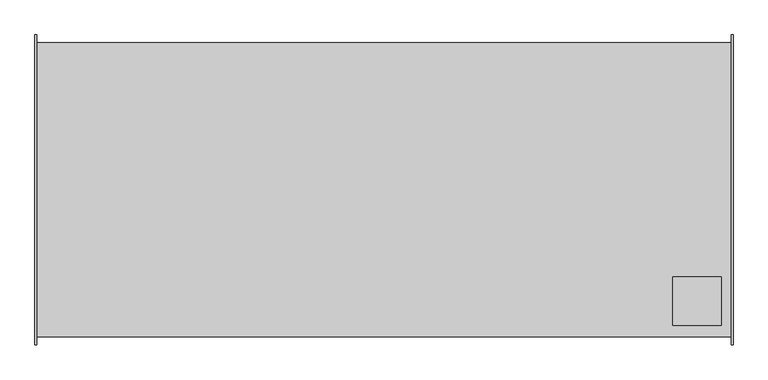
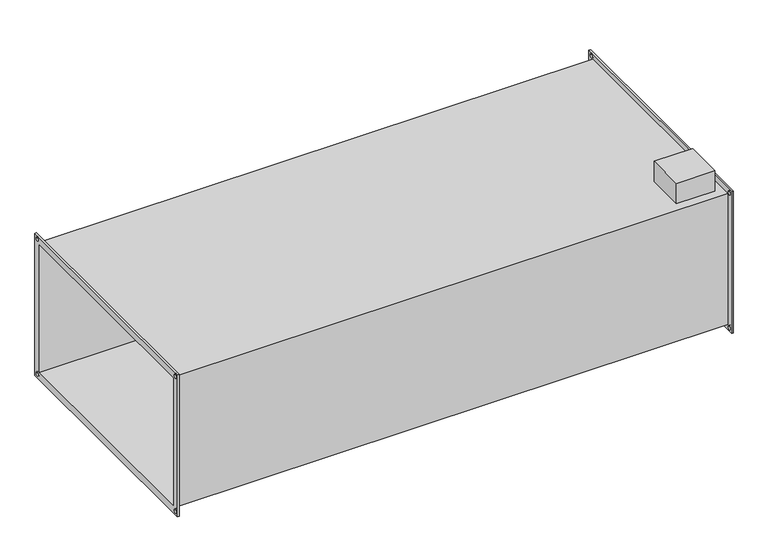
"""IFC4 building model written with IfcOpenShell, lengths in millimetres: proxy geometry."""

from ifc_helpers import new_model, si_unit, frame, origin, place, context, project, spatial, polyline, circle_curve, source, transform, mapped, element, save
from ifc_brep_helpers import plane_surface, revolved_surface, advanced_brep


def mechanical_equipment_26e38f52(model_context):
    return source(origin(), model_context, "Body", "AdvancedBrep", [
        advanced_brep(
        [(716.0, -304.0, 179.0), (-716.0, -304.0, 179.0), (-716.0, -304.0, -179.0), (716.0, -304.0, -179.0), (-716.0, 304.0, -179.0), (716.0, 304.0, -179.0), (-716.0, 304.0, 179.0), (716.0, 304.0, 179.0), (596.0, -180.0, 179.0), (696.0, -180.0, 179.0), (696.0, -280.0, 179.0), (596.0, -280.0, 179.0), (696.0, -180.0, 235.0), (596.0, -180.0, 235.0), (596.0, -280.0, 235.0), (696.0, -280.0, 235.0), (-720.0, -320.0, 195.0), (-720.0, 320.0, 195.0), (-720.0, 320.0, -195.0), (-720.0, -320.0, -195.0), (-720.0, -300.0, 175.0), (-720.0, -300.0, -175.0), (-720.0, 300.0, -175.0), (-720.0, 300.0, 175.0), (-720.0, -315.0, 185.0), (-720.0, -305.0, 185.0), (-720.0, -315.0, -185.0), (-720.0, -305.0, -185.0), (-720.0, 305.0, -185.0), (-720.0, 315.0, -185.0), (-720.0, 305.0, 185.0), (-720.0, 315.0, 185.0), (-716.0, -320.0, 195.0), (-716.0, -320.0, -195.0), (-716.0, 320.0, -195.0), (-716.0, 320.0, 195.0), (-716.0, -305.0, 185.0), (-716.0, -315.0, 185.0), (-716.0, -305.0, -185.0), (-716.0, -315.0, -185.0), (-716.0, 315.0, -185.0), (-716.0, 305.0, -185.0), (-716.0, 315.0, 185.0), (-716.0, 305.0, 185.0), (716.0, 320.0, 195.0), (716.0, 320.0, -195.0), (716.0, -320.0, -195.0), (716.0, -320.0, 195.0), (716.0, -315.0, 185.0), (716.0, -305.0, 185.0), (716.0, -315.0, -185.0), (716.0, -305.0, -185.0), (716.0, 305.0, -185.0), (716.0, 315.0, -185.0), (716.0, 305.0, 185.0), (716.0, 315.0, 185.0), (720.0, 320.0, 195.0), (720.0, -320.0, 195.0), (720.0, -320.0, -195.0), (720.0, 320.0, -195.0), (720.0, 300.0, 175.0), (720.0, 300.0, -175.0), (720.0, -300.0, -175.0), (720.0, -300.0, 175.0), (720.0, -305.0, 185.0), (720.0, -315.0, 185.0), (720.0, -305.0, -185.0), (720.0, -315.0, -185.0), (720.0, 315.0, -185.0), (720.0, 305.0, -185.0), (720.0, 315.0, 185.0), (720.0, 305.0, 185.0)],
        [
            (0, 1),
            (1, 2),
            (2, 3),
            (3, 0),
            (2, 4),
            (4, 5),
            (5, 3),
            (4, 6),
            (6, 7),
            (7, 5),
            (0, 7),
            (6, 1),
            (8, 9),
            (9, 10),
            (10, 11),
            (11, 8),
            (12, 13),
            (13, 14),
            (14, 15),
            (15, 12),
            (12, 9),
            (8, 13),
            (11, 14),
            (10, 15),
            (16, 17),
            (17, 18),
            (18, 19),
            (19, 16),
            (20, 21),
            (21, 22),
            (22, 23),
            (23, 20),
            (24, 25, circle_curve(frame((-720.0, -310.0, 185.0), z_axis=(1.0, 0.0, 0.0), x_axis=(0.0, 1.0, 0.0)), 5.0)),
            (25, 24, circle_curve(frame((-720.0, -310.0, 185.0), z_axis=(1.0, 0.0, 0.0), x_axis=(0.0, 1.0, 0.0)), 5.0)),
            (26, 27, circle_curve(frame((-720.0, -310.0, -185.0), z_axis=(1.0, 0.0, 0.0), x_axis=(0.0, 1.0, 0.0)), 5.0)),
            (27, 26, circle_curve(frame((-720.0, -310.0, -185.0), z_axis=(1.0, 0.0, 0.0), x_axis=(0.0, 1.0, 0.0)), 5.0)),
            (28, 29, circle_curve(frame((-720.0, 310.0, -185.0), z_axis=(1.0, 0.0, 0.0), x_axis=(0.0, 1.0, 0.0)), 5.0)),
            (29, 28, circle_curve(frame((-720.0, 310.0, -185.0), z_axis=(1.0, 0.0, 0.0), x_axis=(0.0, 1.0, 0.0)), 5.0)),
            (30, 31, circle_curve(frame((-720.0, 310.0, 185.0), z_axis=(1.0, 0.0, 0.0), x_axis=(0.0, 1.0, 0.0)), 5.0)),
            (31, 30, circle_curve(frame((-720.0, 310.0, 185.0), z_axis=(1.0, 0.0, 0.0), x_axis=(0.0, 1.0, 0.0)), 5.0)),
            (32, 33),
            (33, 34),
            (34, 35),
            (35, 32),
            (36, 37, circle_curve(frame((-716.0, -310.0, 185.0), z_axis=(-1.0, 0.0, 0.0), x_axis=(0.0, 1.0, 0.0)), 5.0)),
            (37, 36, circle_curve(frame((-716.0, -310.0, 185.0), z_axis=(-1.0, 0.0, 0.0), x_axis=(0.0, 1.0, 0.0)), 5.0)),
            (38, 39, circle_curve(frame((-716.0, -310.0, -185.0), z_axis=(-1.0, 0.0, 0.0), x_axis=(0.0, 1.0, 0.0)), 5.0)),
            (39, 38, circle_curve(frame((-716.0, -310.0, -185.0), z_axis=(-1.0, 0.0, 0.0), x_axis=(0.0, 1.0, 0.0)), 5.0)),
            (40, 41, circle_curve(frame((-716.0, 310.0, -185.0), z_axis=(-1.0, 0.0, 0.0), x_axis=(0.0, 1.0, 0.0)), 5.0)),
            (41, 40, circle_curve(frame((-716.0, 310.0, -185.0), z_axis=(-1.0, 0.0, 0.0), x_axis=(0.0, 1.0, 0.0)), 5.0)),
            (42, 43, circle_curve(frame((-716.0, 310.0, 185.0), z_axis=(-1.0, 0.0, 0.0), x_axis=(0.0, 1.0, 0.0)), 5.0)),
            (43, 42, circle_curve(frame((-716.0, 310.0, 185.0), z_axis=(-1.0, 0.0, 0.0), x_axis=(0.0, 1.0, 0.0)), 5.0)),
            (19, 33),
            (32, 16),
            (18, 34),
            (17, 35),
            (44, 45),
            (45, 46),
            (46, 47),
            (47, 44),
            (48, 49, circle_curve(frame((716.0, -310.0, 185.0), z_axis=(1.0, 0.0, 0.0), x_axis=(0.0, 1.0, 0.0)), 5.0)),
            (49, 48, circle_curve(frame((716.0, -310.0, 185.0), z_axis=(1.0, 0.0, 0.0), x_axis=(0.0, 1.0, 0.0)), 5.0)),
            (50, 51, circle_curve(frame((716.0, -310.0, -185.0), z_axis=(1.0, 0.0, 0.0), x_axis=(0.0, 1.0, 0.0)), 5.0)),
            (51, 50, circle_curve(frame((716.0, -310.0, -185.0), z_axis=(1.0, 0.0, 0.0), x_axis=(0.0, 1.0, 0.0)), 5.0)),
            (52, 53, circle_curve(frame((716.0, 310.0, -185.0), z_axis=(1.0, 0.0, 0.0), x_axis=(0.0, 1.0, 0.0)), 5.0)),
            (53, 52, circle_curve(frame((716.0, 310.0, -185.0), z_axis=(1.0, 0.0, 0.0), x_axis=(0.0, 1.0, 0.0)), 5.0)),
            (54, 55, circle_curve(frame((716.0, 310.0, 185.0), z_axis=(1.0, 0.0, 0.0), x_axis=(0.0, 1.0, 0.0)), 5.0)),
            (55, 54, circle_curve(frame((716.0, 310.0, 185.0), z_axis=(1.0, 0.0, 0.0), x_axis=(0.0, 1.0, 0.0)), 5.0)),
            (56, 57),
            (57, 58),
            (58, 59),
            (59, 56),
            (60, 61),
            (61, 62),
            (62, 63),
            (63, 60),
            (64, 65, circle_curve(frame((720.0, -310.0, 185.0), z_axis=(-1.0, 0.0, 0.0), x_axis=(0.0, 1.0, 0.0)), 5.0)),
            (65, 64, circle_curve(frame((720.0, -310.0, 185.0), z_axis=(-1.0, 0.0, 0.0), x_axis=(0.0, 1.0, 0.0)), 5.0)),
            (66, 67, circle_curve(frame((720.0, -310.0, -185.0), z_axis=(-1.0, 0.0, 0.0), x_axis=(0.0, 1.0, 0.0)), 5.0)),
            (67, 66, circle_curve(frame((720.0, -310.0, -185.0), z_axis=(-1.0, 0.0, 0.0), x_axis=(0.0, 1.0, 0.0)), 5.0)),
            (68, 69, circle_curve(frame((720.0, 310.0, -185.0), z_axis=(-1.0, 0.0, 0.0), x_axis=(0.0, 1.0, 0.0)), 5.0)),
            (69, 68, circle_curve(frame((720.0, 310.0, -185.0), z_axis=(-1.0, 0.0, 0.0), x_axis=(0.0, 1.0, 0.0)), 5.0)),
            (70, 71, circle_curve(frame((720.0, 310.0, 185.0), z_axis=(-1.0, 0.0, 0.0), x_axis=(0.0, 1.0, 0.0)), 5.0)),
            (71, 70, circle_curve(frame((720.0, 310.0, 185.0), z_axis=(-1.0, 0.0, 0.0), x_axis=(0.0, 1.0, 0.0)), 5.0)),
            (47, 57),
            (56, 44),
            (46, 58),
            (45, 59),
            (23, 60),
            (63, 20),
            (22, 61),
            (21, 62),
            (24, 37),
            (36, 25),
            (48, 65),
            (64, 49),
            (26, 39),
            (38, 27),
            (50, 67),
            (66, 51),
            (28, 41),
            (40, 29),
            (52, 69),
            (68, 53),
            (30, 43),
            (42, 31),
            (54, 71),
            (70, 55),
        ],
        [
            plane_surface(frame((716.0, -304.0, 179.0), z_axis=(0.0, -1.0, 0.0), x_axis=(-1.0, 0.0, 0.0))),
            plane_surface(frame((716.0, -304.0, -179.0), z_axis=(0.0, 0.0, -1.0), x_axis=(-1.0, 0.0, 0.0))),
            plane_surface(frame((716.0, 304.0, -179.0), z_axis=(0.0, 1.0, 0.0), x_axis=(-1.0, 0.0, 0.0))),
            plane_surface(frame((716.0, 304.0, 179.0), z_axis=(0.0, 0.0, 1.0), x_axis=(-1.0, 0.0, 0.0))),
            plane_surface(frame((596.0, -180.0, 235.0), z_axis=(0.0, 0.0, 1.0), x_axis=(-1.0, 0.0, 0.0))),
            plane_surface(frame((696.0, -180.0, 235.0), z_axis=(0.0, 1.0, 0.0), x_axis=(0.0, 0.0, -1.0))),
            plane_surface(frame((596.0, -180.0, 235.0), z_axis=(-1.0, 0.0, 0.0), x_axis=(0.0, 0.0, -1.0))),
            plane_surface(frame((596.0, -280.0, 235.0), z_axis=(0.0, -1.0, 0.0), x_axis=(0.0, 0.0, -1.0))),
            plane_surface(frame((696.0, -280.0, 235.0), z_axis=(1.0, 0.0, 0.0), x_axis=(0.0, 0.0, -1.0))),
            plane_surface(frame((-720.0, -320.0, 195.0), z_axis=(-1.0, 0.0, 0.0), x_axis=(0.0, 0.0, 1.0))),
            plane_surface(frame((-716.0, -320.0, 195.0), z_axis=(1.0, 0.0, 0.0), x_axis=(0.0, 0.0, -1.0))),
            plane_surface(frame((-716.0, -320.0, 195.0), z_axis=(0.0, -1.0, 0.0), x_axis=(-1.0, 0.0, 0.0))),
            plane_surface(frame((-716.0, -320.0, -195.0), z_axis=(0.0, 0.0, -1.0), x_axis=(-1.0, 0.0, 0.0))),
            plane_surface(frame((-716.0, 320.0, -195.0), z_axis=(0.0, 1.0, 0.0), x_axis=(-1.0, 0.0, 0.0))),
            plane_surface(frame((-716.0, 320.0, 195.0), z_axis=(0.0, 0.0, 1.0), x_axis=(-1.0, 0.0, 0.0))),
            plane_surface(frame((716.0, 300.0, -175.0), z_axis=(-1.0, 0.0, 0.0), x_axis=(0.0, 0.0, 1.0))),
            plane_surface(frame((720.0, 300.0, -175.0), z_axis=(1.0, 0.0, 0.0), x_axis=(0.0, 0.0, -1.0))),
            plane_surface(frame((720.0, 320.0, 195.0), z_axis=(0.0, 0.0, 1.0), x_axis=(-1.0, 0.0, 0.0))),
            plane_surface(frame((720.0, -320.0, 195.0), z_axis=(0.0, -1.0, 0.0), x_axis=(-1.0, 0.0, 0.0))),
            plane_surface(frame((720.0, -320.0, -195.0), z_axis=(0.0, 0.0, -1.0), x_axis=(-1.0, 0.0, 0.0))),
            plane_surface(frame((720.0, 320.0, -195.0), z_axis=(0.0, 1.0, 0.0), x_axis=(-1.0, 0.0, 0.0))),
            plane_surface(frame((-716.0, -300.0, 175.0), z_axis=(0.0, 0.0, -1.0), x_axis=(-1.0, 0.0, 0.0))),
            plane_surface(frame((-716.0, 300.0, 175.0), z_axis=(0.0, -1.0, 0.0), x_axis=(-1.0, 0.0, 0.0))),
            plane_surface(frame((-716.0, 300.0, -175.0), z_axis=(0.0, 0.0, 1.0), x_axis=(-1.0, 0.0, 0.0))),
            plane_surface(frame((-716.0, -300.0, -175.0), z_axis=(0.0, 1.0, 0.0), x_axis=(-1.0, 0.0, 0.0))),
            revolved_surface(polyline([(-716.0, -305.0, 185.0), (-720.0, -305.0, 185.0)]), (-720.0, -310.0, 185.0), (1.0, 0.0, 0.0)),
            revolved_surface(polyline([(720.0, -305.0, 185.0), (716.0, -305.0, 185.0)]), (-720.0, -310.0, 185.0), (1.0, 0.0, 0.0)),
            revolved_surface(polyline([(-716.0, -305.0, -185.0), (-720.0, -305.0, -185.0)]), (0.0, -310.0, -185.0), (1.0, 0.0, 0.0)),
            revolved_surface(polyline([(720.0, -305.0, -185.0), (716.0, -305.0, -185.0)]), (0.0, -310.0, -185.0), (1.0, 0.0, 0.0)),
            revolved_surface(polyline([(-716.0, 315.0, -185.0), (-720.0, 315.0, -185.0)]), (0.0, 310.0, -185.0), (1.0, 0.0, 0.0)),
            revolved_surface(polyline([(720.0, 315.0, -185.0), (716.0, 315.0, -185.0)]), (0.0, 310.0, -185.0), (1.0, 0.0, 0.0)),
            revolved_surface(polyline([(-716.0, 315.0, 185.0), (-720.0, 315.0, 185.0)]), (0.0, 310.0, 185.0), (1.0, 0.0, 0.0)),
            revolved_surface(polyline([(720.0, 315.0, 185.0), (716.0, 315.0, 185.0)]), (0.0, 310.0, 185.0), (1.0, 0.0, 0.0)),
        ],
        [
            (0, [[1, 2, 3, 4]]),
            (1, [[-3, 5, 6, 7]]),
            (2, [[-6, 8, 9, 10]]),
            (3, [[-1, 11, -9, 12], [13, 14, 15, 16]]),
            (4, [[17, 18, 19, 20]]),
            (5, [[-17, 21, -13, 22]]),
            (6, [[-18, -22, -16, 23]]),
            (7, [[-19, -23, -15, 24]]),
            (8, [[-20, -24, -14, -21]]),
            (9, [[25, 26, 27, 28], [29, 30, 31, 32], [33, 34], [35, 36], [37, 38], [39, 40]]),
            (10, [[41, 42, 43, 44], [-2, -12, -8, -5], [45, 46], [47, 48], [49, 50], [51, 52]]),
            (11, [[-28, 53, -41, 54]]),
            (12, [[-27, 55, -42, -53]]),
            (13, [[-26, 56, -43, -55]]),
            (14, [[-25, -54, -44, -56]]),
            (15, [[57, 58, 59, 60], [-4, -7, -10, -11], [61, 62], [63, 64], [65, 66], [67, 68]]),
            (16, [[69, 70, 71, 72], [73, 74, 75, 76], [77, 78], [79, 80], [81, 82], [83, 84]]),
            (17, [[-60, 85, -69, 86]]),
            (18, [[-59, 87, -70, -85]]),
            (19, [[-58, 88, -71, -87]]),
            (20, [[-57, -86, -72, -88]]),
            (21, [[-32, 89, -76, 90]]),
            (22, [[-31, 91, -73, -89]]),
            (23, [[-30, 92, -74, -91]]),
            (24, [[-29, -90, -75, -92]]),
            (25, [[93, -45, 94, -33]]),
            (26, [[95, -77, 96, -61]]),
            (25, [[-93, -34, -94, -46]]),
            (26, [[-95, -62, -96, -78]]),
            (27, [[97, -47, 98, -35]]),
            (28, [[99, -79, 100, -63]]),
            (27, [[-97, -36, -98, -48]]),
            (28, [[-99, -64, -100, -80]]),
            (29, [[101, -49, 102, -37]]),
            (30, [[103, -81, 104, -65]]),
            (29, [[-101, -38, -102, -50]]),
            (30, [[-103, -66, -104, -82]]),
            (31, [[105, -51, 106, -39]]),
            (32, [[107, -83, 108, -67]]),
            (31, [[-105, -40, -106, -52]]),
            (32, [[-107, -68, -108, -84]]),
        ],
    ),
    ])


if __name__ == "__main__":
    model = new_model("IFC4")
    model_context = context("Model", 3, world=origin())
    ifc_project = project(units=[si_unit("LENGTHUNIT", "METRE", prefix="MILLI")], contexts=[model_context])
    site = spatial("IfcSite", under=ifc_project)
    building = spatial("IfcBuilding", under=site)
    placement = place(None, origin())
    mechanical_equipment_shape = mechanical_equipment_26e38f52(model_context)
    element("IfcBuildingElementProxy", 1, Name="Mechanical Equipment", at=placement, inside=building, context=model_context, shape_type="MappedRepresentation", body=[
        mapped(mechanical_equipment_shape, transform((0.0, 0.0, 0.0), x_axis=(1.0, 0.0, 0.0), y_axis=(0.0, 1.0, 0.0), z_axis=(0.0, 0.0, 1.0))),
    ])
    save(model, "model.ifc")
